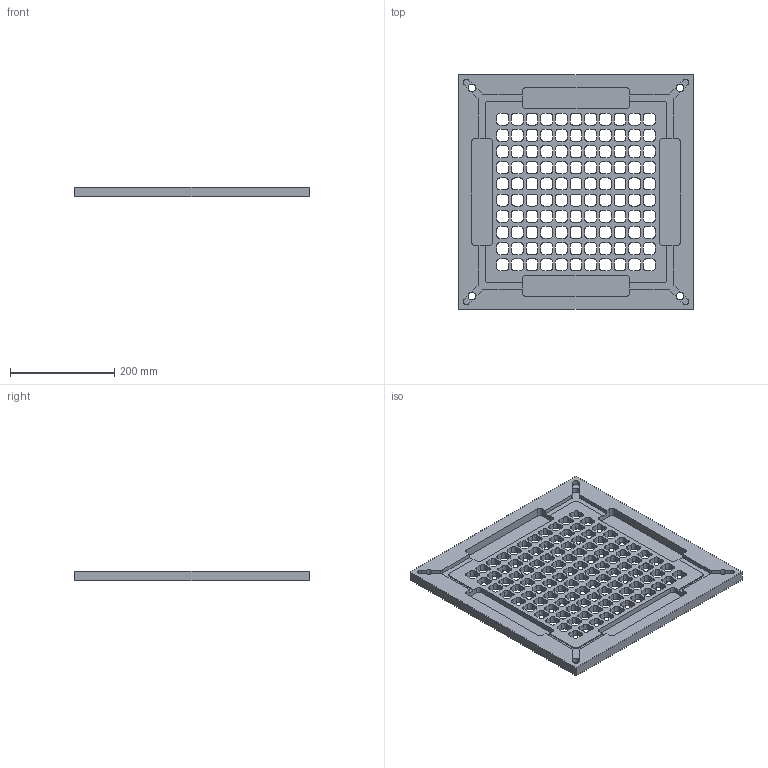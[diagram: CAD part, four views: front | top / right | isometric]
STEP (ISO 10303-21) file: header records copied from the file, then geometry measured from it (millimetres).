
FILE_DESCRIPTION(/* description */ (''),/* implementation_level */ '2;1');
FILE_NAME(/* name */ 'C:/Daten/Wordclock/Zwischenboden 12h 450x450mm/Wordclock 12h Zwischenboden v8.step',/* time_stamp */ '2018-10-29T22:20:32+01:00',/* author */ ('spam-mich-voll'),/* organization */ (''),/* preprocessor_version */ 'ST-DEVELOPER v17.2',/* originating_system */ 'Autodesk Translation Framework v7.6.0.251',/* authorisation */ '');
FILE_SCHEMA (('AUTOMOTIVE_DESIGN { 1 0 10303 214 3 1 1 }'));
Length unit declared in the file: millimetre
Products named in the file (1): Wordclock 12h Zwischenboden
Bounding box: 450 x 450 x 19 mm (x, y, z)
Volume: 1850693.2 mm3; surface area: 483475.2 mm2
Topology: 1 solids, 1 shells, 983 faces, 2952 edges, 1968 vertices
Faces by surface type: plane 507, cylinder 476
Full cylindrical faces by diameter (mm): 15 x4
Entity records: 33930 total; most frequent: ORIENTED_EDGE 5904, CARTESIAN_POINT 5904, DIRECTION 5888, EDGE_CURVE 2952, LINE 1984, VECTOR 1984, VERTEX_POINT 1968, AXIS2_PLACEMENT_3D 1952
